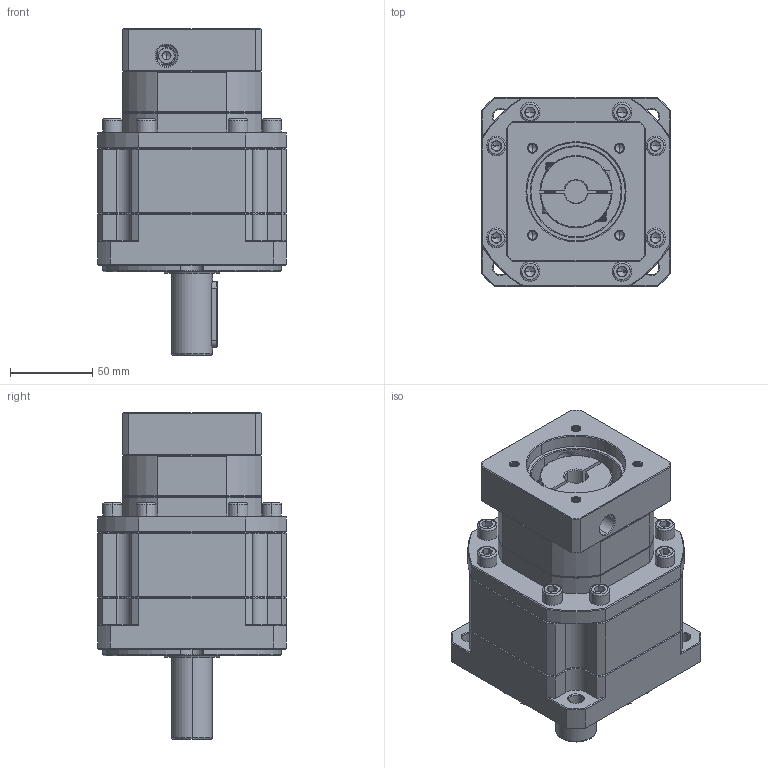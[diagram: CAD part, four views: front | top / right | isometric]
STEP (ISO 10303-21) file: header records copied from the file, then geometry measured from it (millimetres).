
FILE_DESCRIPTION (( 'STEP AP214' ), '1' );
FILE_NAME ('ZB115A-D25-L2-P2-14-60-75-M6.step', '2023-08-26T09:59:14', ( '' ), ( '' ), 'SwSTEP 2.0', 'SolidWorks 2016', '' );
FILE_SCHEMA (( 'AUTOMOTIVE_DESIGN' ));
Length unit declared in the file: millimetre
Products named in the file (1): ZB115A-D25-L2-P2-14-60-75-M6
Bounding box: 115 x 115 x 199 mm (x, y, z)
Volume: 1371302.6 mm3; surface area: 132878.1 mm2
Topology: 5 solids, 6 shells, 2420 faces, 6335 edges, 4017 vertices
Faces by surface type: plane 1186, cylinder 429, bspline 427, cone 363, torus 15
Entity records: 128445 total; most frequent: CARTESIAN_POINT 45958, ORIENTED_EDGE 12594, DIRECTION 9975, EDGE_CURVE 6297, VECTOR 4039, LINE 4039, VERTEX_POINT 4017, AXIS2_PLACEMENT_3D 2968
